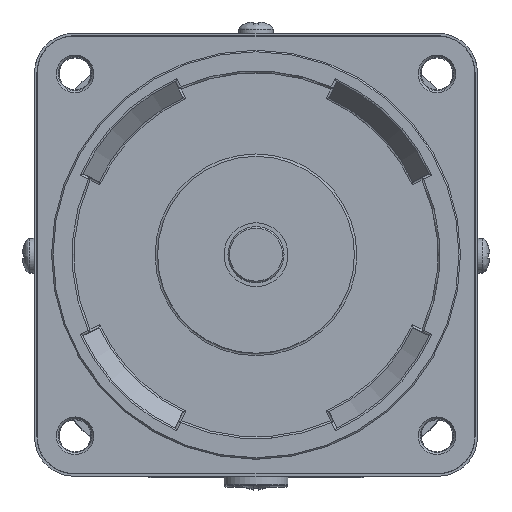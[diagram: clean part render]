
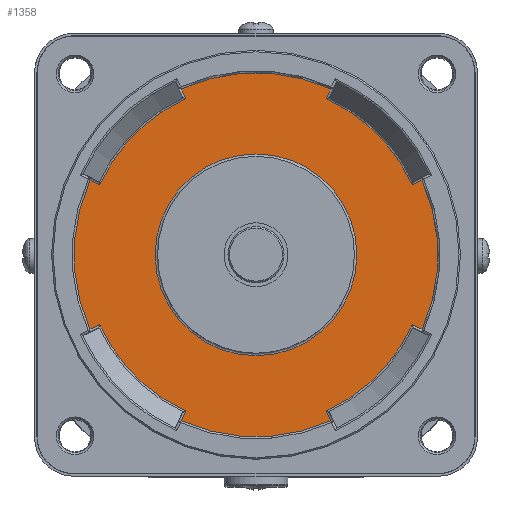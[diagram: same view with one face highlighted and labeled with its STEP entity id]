
A CAD part, top view. The second image highlights one B-rep face of the part: STEP entity #1358.
In plain terms, the highlighted planar face has unit normal (0, 0, 1).
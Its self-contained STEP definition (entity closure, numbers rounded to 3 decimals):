
#54 = CARTESIAN_POINT ( 'NONE',  ( 0., 0., -2. ) ) ;
#66 = CIRCLE ( 'NONE', #5128, 34.775 ) ;
#96 = DIRECTION ( 'NONE',  ( 0.423, 0.906, 0. ) ) ;
#107 = EDGE_CURVE ( 'NONE', #9313, #8371, #66, .T. ) ;
#122 = CARTESIAN_POINT ( 'NONE',  ( 0., 0., -2. ) ) ;
#486 = DIRECTION ( 'NONE',  ( -0.906, -0.423, 0. ) ) ;
#583 = DIRECTION ( 'NONE',  ( 1., 0., 0. ) ) ;
#939 = AXIS2_PLACEMENT_3D ( 'NONE', #13364, #8119, #13435 ) ;
#1054 = VERTEX_POINT ( 'NONE', #14937 ) ;
#1273 = CARTESIAN_POINT ( 'NONE',  ( -14.242, 31.725, -2. ) ) ;
#1358 = ADVANCED_FACE ( 'NONE', ( #14273, #1688 ), #14432, .T. ) ;
#1382 = CIRCLE ( 'NONE', #13889, 36.987 ) ;
#1488 = VERTEX_POINT ( 'NONE', #13589 ) ;
#1619 = VERTEX_POINT ( 'NONE', #3283 ) ;
#1641 = ORIENTED_EDGE ( 'NONE', *, *, #9735, .T. ) ;
#1688 = FACE_BOUND ( 'NONE', #3673, .T. ) ;
#1721 = CARTESIAN_POINT ( 'NONE',  ( 0., 0., -2. ) ) ;
#1762 = DIRECTION ( 'NONE',  ( 0.906, 0.423, 0. ) ) ;
#1775 = CARTESIAN_POINT ( 'NONE',  ( -33.73, 15.177, -2. ) ) ;
#1925 = LINE ( 'NONE', #10807, #9693 ) ;
#2080 = CARTESIAN_POINT ( 'NONE',  ( 33.73, -15.177, -2. ) ) ;
#2210 = CARTESIAN_POINT ( 'NONE',  ( -15.177, 33.73, -2. ) ) ;
#2415 = DIRECTION ( 'NONE',  ( 0., 0., 1. ) ) ;
#2604 = LINE ( 'NONE', #4792, #9881 ) ;
#2613 = VERTEX_POINT ( 'NONE', #3509 ) ;
#2797 = ORIENTED_EDGE ( 'NONE', *, *, #107, .T. ) ;
#2820 = DIRECTION ( 'NONE',  ( 1., 0., 0. ) ) ;
#2867 = AXIS2_PLACEMENT_3D ( 'NONE', #54, #2415, #3779 ) ;
#2931 = VERTEX_POINT ( 'NONE', #5520 ) ;
#3004 = VERTEX_POINT ( 'NONE', #7690 ) ;
#3006 = AXIS2_PLACEMENT_3D ( 'NONE', #10946, #12161, #6289 ) ;
#3283 = CARTESIAN_POINT ( 'NONE',  ( 14.242, -31.725, -2. ) ) ;
#3509 = CARTESIAN_POINT ( 'NONE',  ( -33.73, -15.177, -2. ) ) ;
#3559 = ORIENTED_EDGE ( 'NONE', *, *, #7073, .T. ) ;
#3592 = DIRECTION ( 'NONE',  ( 0.906, -0.423, 0. ) ) ;
#3673 = EDGE_LOOP ( 'NONE', ( #14501 ) ) ;
#3699 = CIRCLE ( 'NONE', #11599, 34.775 ) ;
#3728 = VERTEX_POINT ( 'NONE', #6064 ) ;
#3760 = DIRECTION ( 'NONE',  ( -0.906, 0.423, 0. ) ) ;
#3779 = DIRECTION ( 'NONE',  ( 1., 0., 0. ) ) ;
#3840 = EDGE_CURVE ( 'NONE', #10592, #2613, #1382, .T. ) ;
#4207 = DIRECTION ( 'NONE',  ( -0.423, -0.906, 0. ) ) ;
#4326 = CIRCLE ( 'NONE', #6483, 36.987 ) ;
#4553 = ORIENTED_EDGE ( 'NONE', *, *, #9885, .T. ) ;
#4663 = EDGE_CURVE ( 'NONE', #13756, #1619, #10000, .T. ) ;
#4698 = VECTOR ( 'NONE', #1762, 1000. ) ;
#4792 = CARTESIAN_POINT ( 'NONE',  ( -0.453, 0.211, -2. ) ) ;
#5010 = CARTESIAN_POINT ( 'NONE',  ( 14.242, 31.725, -2. ) ) ;
#5102 = ORIENTED_EDGE ( 'NONE', *, *, #6307, .T. ) ;
#5128 = AXIS2_PLACEMENT_3D ( 'NONE', #9310, #13927, #8110 ) ;
#5149 = CARTESIAN_POINT ( 'NONE',  ( 0., 0., -2. ) ) ;
#5520 = CARTESIAN_POINT ( 'NONE',  ( -15.177, -33.73, -2. ) ) ;
#5761 = AXIS2_PLACEMENT_3D ( 'NONE', #7883, #11336, #9298 ) ;
#5883 = EDGE_CURVE ( 'NONE', #1619, #10358, #6950, .T. ) ;
#5894 = AXIS2_PLACEMENT_3D ( 'NONE', #6859, #8122, #12739 ) ;
#6064 = CARTESIAN_POINT ( 'NONE',  ( 33.73, 15.177, -2. ) ) ;
#6223 = ORIENTED_EDGE ( 'NONE', *, *, #3840, .T. ) ;
#6289 = DIRECTION ( 'NONE',  ( 1., 0., 0. ) ) ;
#6307 = EDGE_CURVE ( 'NONE', #12229, #3004, #7672, .T. ) ;
#6483 = AXIS2_PLACEMENT_3D ( 'NONE', #122, #12868, #10742 ) ;
#6715 = EDGE_CURVE ( 'NONE', #10358, #13909, #9138, .T. ) ;
#6852 = CARTESIAN_POINT ( 'NONE',  ( 14.338, -31.932, -2. ) ) ;
#6859 = CARTESIAN_POINT ( 'NONE',  ( 0., 0., -2. ) ) ;
#6950 = CIRCLE ( 'NONE', #2867, 34.775 ) ;
#7044 = DIRECTION ( 'NONE',  ( 1., 0., 0. ) ) ;
#7073 = EDGE_CURVE ( 'NONE', #13909, #3728, #9084, .T. ) ;
#7377 = VERTEX_POINT ( 'NONE', #8482 ) ;
#7476 = DIRECTION ( 'NONE',  ( 0., 0., 1. ) ) ;
#7483 = CARTESIAN_POINT ( 'NONE',  ( -31.932, -14.338, -2. ) ) ;
#7606 = EDGE_CURVE ( 'NONE', #3004, #10592, #8247, .T. ) ;
#7672 = CIRCLE ( 'NONE', #5761, 34.775 ) ;
#7690 = CARTESIAN_POINT ( 'NONE',  ( -31.725, 14.242, -2. ) ) ;
#7720 = LINE ( 'NONE', #13460, #14786 ) ;
#7883 = CARTESIAN_POINT ( 'NONE',  ( 0., 0., -2. ) ) ;
#8110 = DIRECTION ( 'NONE',  ( 1., 0., 0. ) ) ;
#8119 = DIRECTION ( 'NONE',  ( 0., 0., 1. ) ) ;
#8122 = DIRECTION ( 'NONE',  ( 0., 0., -1. ) ) ;
#8247 = LINE ( 'NONE', #14065, #9816 ) ;
#8337 = EDGE_CURVE ( 'NONE', #7377, #14761, #4326, .T. ) ;
#8371 = VERTEX_POINT ( 'NONE', #11230 ) ;
#8471 = ORIENTED_EDGE ( 'NONE', *, *, #6715, .T. ) ;
#8482 = CARTESIAN_POINT ( 'NONE',  ( 15.177, 33.73, -2. ) ) ;
#8904 = ORIENTED_EDGE ( 'NONE', *, *, #14149, .T. ) ;
#8939 = VECTOR ( 'NONE', #10002, 1000. ) ;
#9013 = CARTESIAN_POINT ( 'NONE',  ( 31.725, -14.242, -2. ) ) ;
#9084 = CIRCLE ( 'NONE', #939, 36.987 ) ;
#9138 = LINE ( 'NONE', #12697, #14662 ) ;
#9242 = CIRCLE ( 'NONE', #9475, 36.987 ) ;
#9298 = DIRECTION ( 'NONE',  ( 1., 0., 0. ) ) ;
#9310 = CARTESIAN_POINT ( 'NONE',  ( 0., 0., -2. ) ) ;
#9313 = VERTEX_POINT ( 'NONE', #14332 ) ;
#9475 = AXIS2_PLACEMENT_3D ( 'NONE', #13977, #12775, #7044 ) ;
#9476 = ORIENTED_EDGE ( 'NONE', *, *, #4663, .T. ) ;
#9618 = ORIENTED_EDGE ( 'NONE', *, *, #7606, .T. ) ;
#9693 = VECTOR ( 'NONE', #486, 1000. ) ;
#9735 = EDGE_CURVE ( 'NONE', #13112, #7377, #2604, .T. ) ;
#9816 = VECTOR ( 'NONE', #3760, 1000. ) ;
#9825 = CARTESIAN_POINT ( 'NONE',  ( 15.177, -33.73, -2. ) ) ;
#9881 = VECTOR ( 'NONE', #96, 1000. ) ;
#9885 = EDGE_CURVE ( 'NONE', #14761, #12229, #12134, .T. ) ;
#10000 = LINE ( 'NONE', #6852, #11488 ) ;
#10002 = DIRECTION ( 'NONE',  ( 0.423, -0.906, 0. ) ) ;
#10186 = EDGE_CURVE ( 'NONE', #1488, #13112, #3699, .T. ) ;
#10358 = VERTEX_POINT ( 'NONE', #9013 ) ;
#10592 = VERTEX_POINT ( 'NONE', #1775 ) ;
#10742 = DIRECTION ( 'NONE',  ( 1., 0., 0. ) ) ;
#10807 = CARTESIAN_POINT ( 'NONE',  ( 31.932, 14.338, -2. ) ) ;
#10897 = DIRECTION ( 'NONE',  ( 0., 0., 1. ) ) ;
#10946 = CARTESIAN_POINT ( 'NONE',  ( 0., 0., -2. ) ) ;
#11134 = CARTESIAN_POINT ( 'NONE',  ( -14.338, 31.932, -2. ) ) ;
#11230 = CARTESIAN_POINT ( 'NONE',  ( -14.242, -31.725, -2. ) ) ;
#11336 = DIRECTION ( 'NONE',  ( 0., 0., 1. ) ) ;
#11488 = VECTOR ( 'NONE', #14929, 1000. ) ;
#11518 = ORIENTED_EDGE ( 'NONE', *, *, #14000, .T. ) ;
#11599 = AXIS2_PLACEMENT_3D ( 'NONE', #1721, #10897, #583 ) ;
#11671 = EDGE_CURVE ( 'NONE', #3728, #1488, #1925, .T. ) ;
#11887 = CIRCLE ( 'NONE', #5894, 20.5 ) ;
#12078 = LINE ( 'NONE', #7483, #4698 ) ;
#12134 = LINE ( 'NONE', #11134, #8939 ) ;
#12161 = DIRECTION ( 'NONE',  ( 0., 0., 1. ) ) ;
#12229 = VERTEX_POINT ( 'NONE', #1273 ) ;
#12249 = EDGE_CURVE ( 'NONE', #1054, #1054, #11887, .T. ) ;
#12451 = ORIENTED_EDGE ( 'NONE', *, *, #13769, .T. ) ;
#12697 = CARTESIAN_POINT ( 'NONE',  ( 0.211, 0.453, -2. ) ) ;
#12739 = DIRECTION ( 'NONE',  ( 1., 0., 0. ) ) ;
#12775 = DIRECTION ( 'NONE',  ( 0., 0., 1. ) ) ;
#12868 = DIRECTION ( 'NONE',  ( 0., 0., 1. ) ) ;
#12927 = EDGE_LOOP ( 'NONE', ( #8471, #3559, #14674, #13922, #1641, #13171, #4553, #5102, #9618, #6223, #8904, #2797, #12451, #11518, #9476, #13723 ) ) ;
#13112 = VERTEX_POINT ( 'NONE', #5010 ) ;
#13171 = ORIENTED_EDGE ( 'NONE', *, *, #8337, .T. ) ;
#13364 = CARTESIAN_POINT ( 'NONE',  ( 0., 0., -2. ) ) ;
#13435 = DIRECTION ( 'NONE',  ( 1., 0., 0. ) ) ;
#13460 = CARTESIAN_POINT ( 'NONE',  ( 0.453, -0.211, -2. ) ) ;
#13589 = CARTESIAN_POINT ( 'NONE',  ( 31.725, 14.242, -2. ) ) ;
#13723 = ORIENTED_EDGE ( 'NONE', *, *, #5883, .T. ) ;
#13756 = VERTEX_POINT ( 'NONE', #9825 ) ;
#13769 = EDGE_CURVE ( 'NONE', #8371, #2931, #7720, .T. ) ;
#13889 = AXIS2_PLACEMENT_3D ( 'NONE', #5149, #7476, #2820 ) ;
#13909 = VERTEX_POINT ( 'NONE', #2080 ) ;
#13922 = ORIENTED_EDGE ( 'NONE', *, *, #10186, .T. ) ;
#13927 = DIRECTION ( 'NONE',  ( 0., 0., 1. ) ) ;
#13977 = CARTESIAN_POINT ( 'NONE',  ( 0., 0., -2. ) ) ;
#14000 = EDGE_CURVE ( 'NONE', #2931, #13756, #9242, .T. ) ;
#14065 = CARTESIAN_POINT ( 'NONE',  ( -0.211, -0.453, -2. ) ) ;
#14149 = EDGE_CURVE ( 'NONE', #2613, #9313, #12078, .T. ) ;
#14273 = FACE_OUTER_BOUND ( 'NONE', #12927, .T. ) ;
#14332 = CARTESIAN_POINT ( 'NONE',  ( -31.725, -14.242, -2. ) ) ;
#14432 = PLANE ( 'NONE',  #3006 ) ;
#14501 = ORIENTED_EDGE ( 'NONE', *, *, #12249, .T. ) ;
#14662 = VECTOR ( 'NONE', #3592, 1000. ) ;
#14674 = ORIENTED_EDGE ( 'NONE', *, *, #11671, .T. ) ;
#14761 = VERTEX_POINT ( 'NONE', #2210 ) ;
#14786 = VECTOR ( 'NONE', #4207, 1000. ) ;
#14929 = DIRECTION ( 'NONE',  ( -0.423, 0.906, 0. ) ) ;
#14937 = CARTESIAN_POINT ( 'NONE',  ( 20.5, 0., -2. ) ) ;
